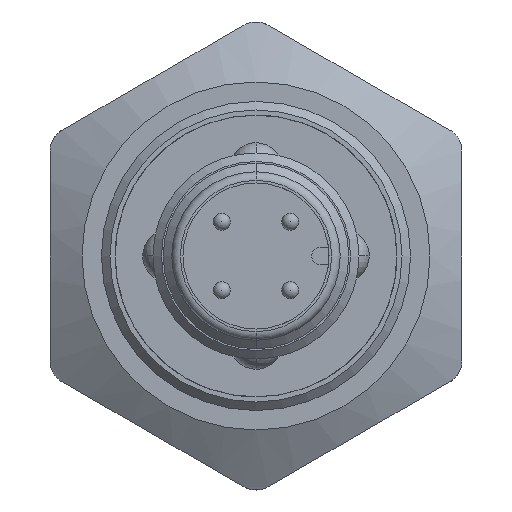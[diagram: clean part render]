
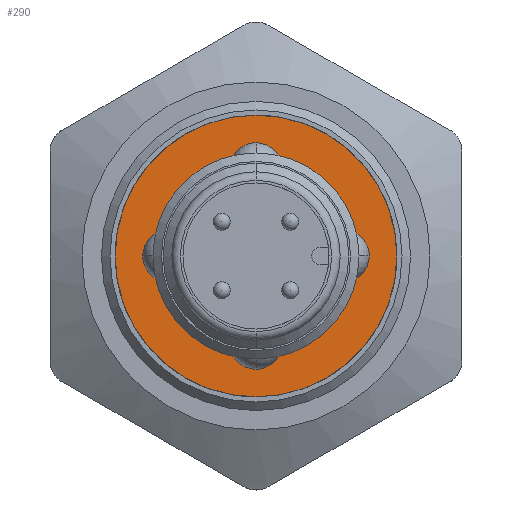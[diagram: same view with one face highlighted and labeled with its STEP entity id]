
A CAD part, front view. The second image highlights one B-rep face of the part: STEP entity #290.
In plain terms, the highlighted planar face has unit normal (0, -1, 0).
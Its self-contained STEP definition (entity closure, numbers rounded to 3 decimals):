
#290=ADVANCED_FACE('',(#432,#433),#355,.T.);
#355=PLANE('',#1309);
#432=FACE_BOUND('',#480,.T.);
#433=FACE_BOUND('',#481,.T.);
#480=EDGE_LOOP('',(#606,#607));
#481=EDGE_LOOP('',(#608,#609));
#606=ORIENTED_EDGE('',*,*,#1076,.T.);
#607=ORIENTED_EDGE('',*,*,#1062,.T.);
#608=ORIENTED_EDGE('',*,*,#1073,.F.);
#609=ORIENTED_EDGE('',*,*,#1069,.F.);
#933=VERTEX_POINT('',#1977);
#934=VERTEX_POINT('',#1978);
#937=VERTEX_POINT('',#2013);
#938=VERTEX_POINT('',#2015);
#1062=EDGE_CURVE('',#933,#934,#1227,.T.);
#1069=EDGE_CURVE('',#937,#938,#1229,.T.);
#1073=EDGE_CURVE('',#938,#937,#1230,.T.);
#1076=EDGE_CURVE('',#934,#933,#1231,.T.);
#1227=CIRCLE('',#1302,8.2);
#1229=CIRCLE('',#1305,5.4);
#1230=CIRCLE('',#1306,5.4);
#1231=CIRCLE('',#1308,8.2);
#1302=AXIS2_PLACEMENT_3D('',#1976,#1464,#1465);
#1305=AXIS2_PLACEMENT_3D('',#2014,#1474,#1475);
#1306=AXIS2_PLACEMENT_3D('',#2045,#1478,#1479);
#1308=AXIS2_PLACEMENT_3D('',#2099,#1482,#1483);
#1309=AXIS2_PLACEMENT_3D('',#2100,#1484,#1485);
#1464=DIRECTION('',(0.,-1.,0.));
#1465=DIRECTION('',(0.,0.,-1.));
#1474=DIRECTION('',(0.,-1.,0.));
#1475=DIRECTION('',(0.,0.,-1.));
#1478=DIRECTION('',(0.,-1.,0.));
#1479=DIRECTION('',(0.,0.,-1.));
#1482=DIRECTION('',(0.,-1.,0.));
#1483=DIRECTION('',(0.,0.,-1.));
#1484=DIRECTION('',(0.,-1.,0.));
#1485=DIRECTION('',(0.,0.,1.));
#1976=CARTESIAN_POINT('',(0.,-15.5,0.));
#1977=CARTESIAN_POINT('',(0.,-15.5,-8.2));
#1978=CARTESIAN_POINT('',(0.,-15.5,8.2));
#2013=CARTESIAN_POINT('',(0.,-15.5,-5.4));
#2014=CARTESIAN_POINT('',(0.,-15.5,0.));
#2015=CARTESIAN_POINT('',(0.,-15.5,5.4));
#2045=CARTESIAN_POINT('',(0.,-15.5,0.));
#2099=CARTESIAN_POINT('',(0.,-15.5,0.));
#2100=CARTESIAN_POINT('',(0.,-15.5,0.));
